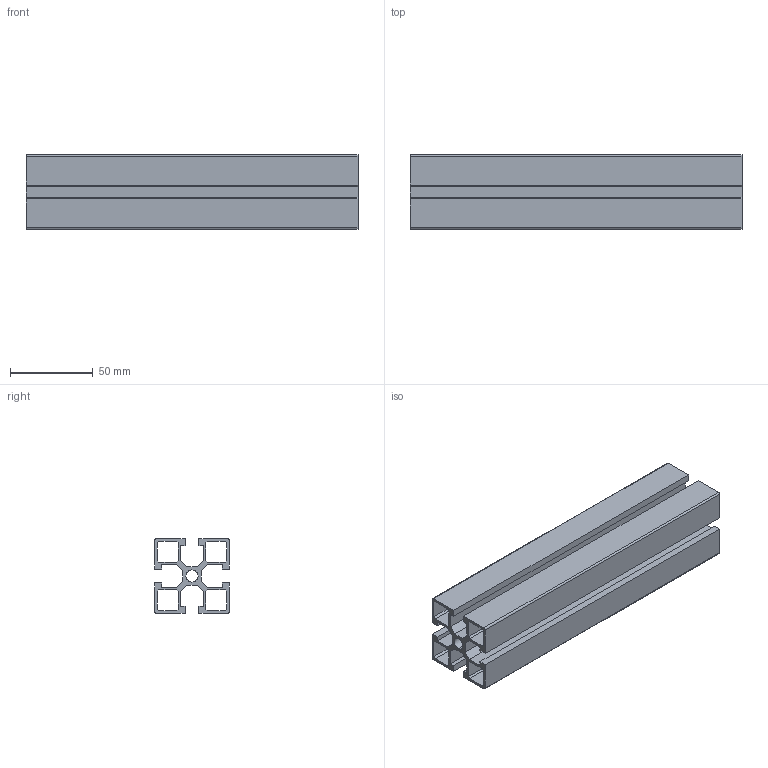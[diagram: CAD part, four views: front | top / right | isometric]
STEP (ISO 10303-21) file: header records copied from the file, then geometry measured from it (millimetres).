
FILE_DESCRIPTION (( 'STEP AP203' ), '1' );
FILE_NAME ('1.01.02.0047-profilo-alluminio-3D-45x45L-Milper.STEP', '2020-06-03T14:02:55', ( '' ), ( '' ), 'SwSTEP 2.0', 'SolidWorks 2019', '' );
FILE_SCHEMA (( 'CONFIG_CONTROL_DESIGN' ));
Length unit declared in the file: millimetre
Products named in the file (1): 1.01.02.0047-profilo-alluminio-3D-45x45L-Milper
Bounding box: 200 x 45 x 45 mm (x, y, z)
Volume: 112947.6 mm3; surface area: 112397.3 mm2
Topology: 1 solids, 1 shells, 84 faces, 246 edges, 164 vertices
Faces by surface type: plane 78, cylinder 6
Entity records: 2839 total; most frequent: CARTESIAN_POINT 495, ORIENTED_EDGE 492, DIRECTION 428, EDGE_CURVE 246, VECTOR 234, LINE 234, VERTEX_POINT 164, AXIS2_PLACEMENT_3D 97
